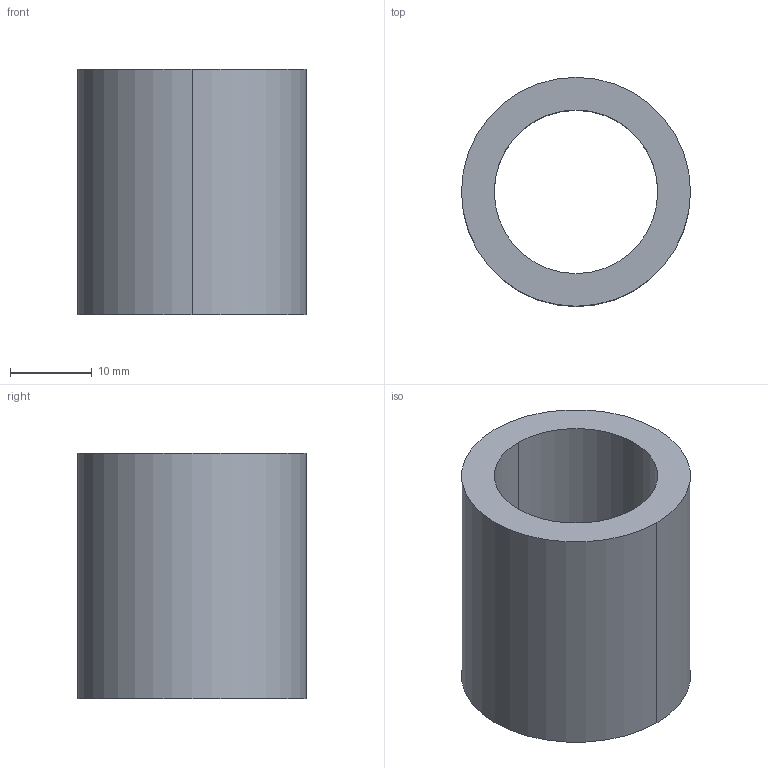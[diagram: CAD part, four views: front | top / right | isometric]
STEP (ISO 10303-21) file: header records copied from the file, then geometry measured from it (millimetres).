
FILE_DESCRIPTION(/* description */ (''),/* implementation_level */ '2;1');
FILE_NAME(/* name */ '3d_tgbz20-30_00333_r00.stp',/* time_stamp */ '2011-01-10T14:09:03+09:00',/* author */ ('MISUMI'),/* organization */ (''),/* preprocessor_version */ 'ST-DEVELOPER v11',/* originating_system */ 'UGS - NX 5.0',/* authorisation */ '');
FILE_SCHEMA (('CONFIG_CONTROL_DESIGN'));
Length unit declared in the file: millimetre
Products named in the file (1): 3d_tgbz20-30_00333_r00
Bounding box: 28 x 28 x 30 mm (x, y, z)
Volume: 9047.8 mm3; surface area: 5127.1 mm2
Topology: 1 solids, 1 shells, 6 faces, 12 edges, 8 vertices
Faces by surface type: cylinder 4, plane 2
Entity records: 254 total; most frequent: DIRECTION 34, CARTESIAN_POINT 27, ORIENTED_EDGE 24, AXIS2_PLACEMENT_3D 15, EDGE_CURVE 12, EDGE_LOOP 8, CIRCLE 8, VERTEX_POINT 8
